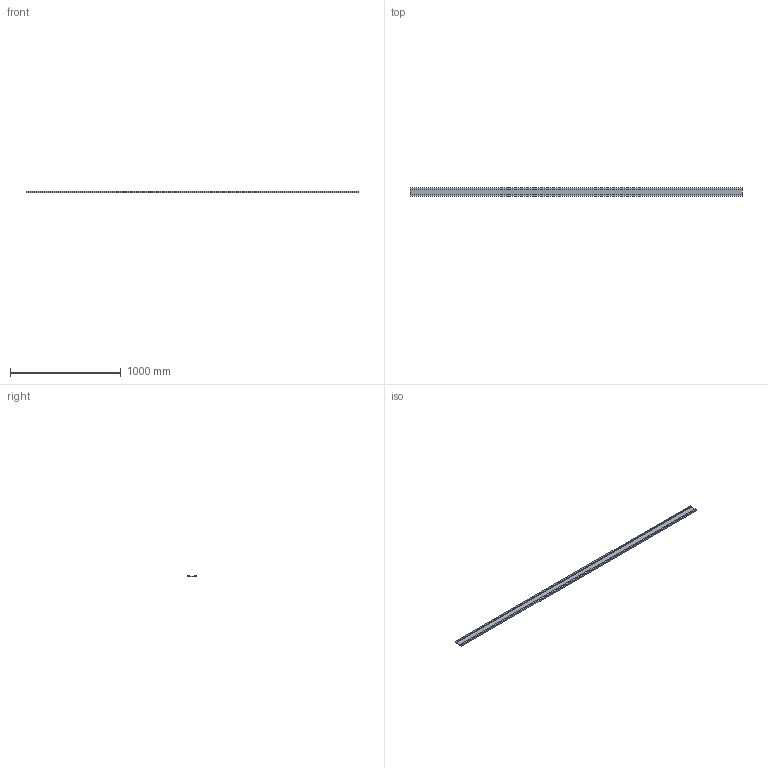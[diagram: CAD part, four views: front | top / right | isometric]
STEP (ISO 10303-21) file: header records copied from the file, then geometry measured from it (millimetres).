
FILE_DESCRIPTION (( 'STEP AP214' ), '1' );
FILE_NAME ('FABER - FD7 5.step', '2017-04-06T07:45:52', ( '' ), ( '' ), 'SwSTEP 2.0', 'SolidWorks 2016', '' );
FILE_SCHEMA (( 'AUTOMOTIVE_DESIGN' ));
Length unit declared in the file: millimetre
Products named in the file (1): FABER - FD7 5
Bounding box: 3000 x 80 x 14 mm (x, y, z)
Volume: 1678500 mm3; surface area: 691119 mm2
Topology: 1 solids, 1 shells, 14 faces, 36 edges, 24 vertices
Faces by surface type: plane 14
Entity records: 454 total; most frequent: CARTESIAN_POINT 75, ORIENTED_EDGE 72, DIRECTION 66, VECTOR 36, LINE 36, EDGE_CURVE 36, VERTEX_POINT 24, AXIS2_PLACEMENT_3D 15
